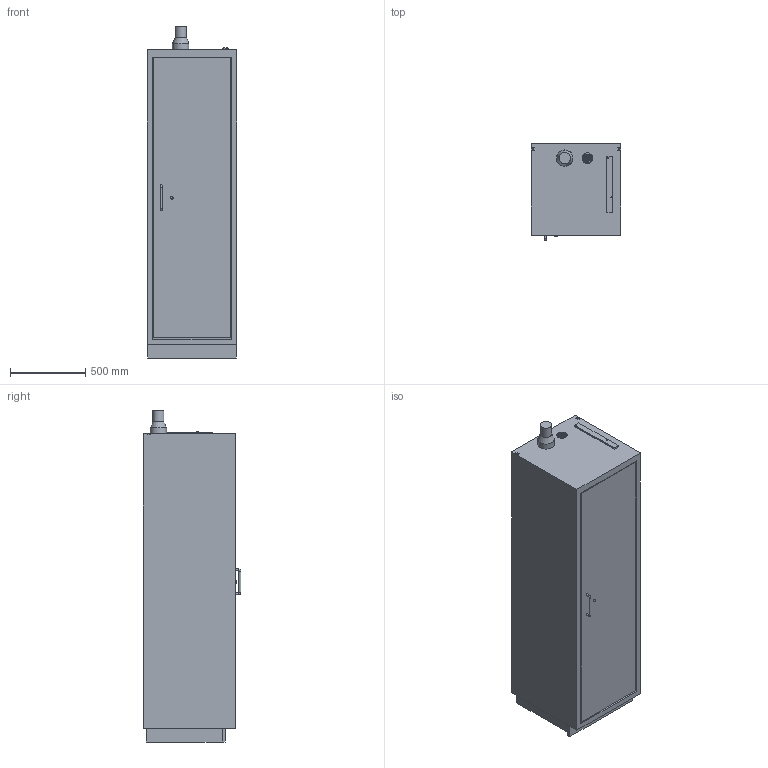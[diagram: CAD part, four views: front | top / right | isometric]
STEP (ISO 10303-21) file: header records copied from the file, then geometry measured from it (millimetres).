
FILE_DESCRIPTION(/* description */ ('Unknown'),/* implementation_level */ '2;1');
FILE_NAME(/* name */ 'Sicherheitsschrank Typ 90_D00086247',/* time_stamp */ '2019-04-10T11:21:08+02:00',/* author */ ('Unknown'),/* organization */ ('Unknown'),/* preprocessor_version */ 'ST-DEVELOPER v16.7',/* originating_system */ 'DEX',/* authorisation */ $);
FILE_SCHEMA (('AUTOMOTIVE_DESIGN {1 0 10303 214 3 1 1}'));
Length unit declared in the file: millimetre
Products named in the file (1): Sicherheitsschrank Typ 90_D00086247
Bounding box: 594 x 647 x 2203 mm (x, y, z)
Volume: 713104952.2 mm3; surface area: 6450805.1 mm2
Topology: 1 solids, 1 shells, 106 faces, 254 edges, 169 vertices
Faces by surface type: plane 79, cylinder 24, torus 2, cone 1
Full cylindrical faces by diameter (mm): 6.2 x2, 7.5 x2, 12 x3, 18 x1, 75 x1, 109.5 x1
Entity records: 3729 total; most frequent: CARTESIAN_POINT 509, DIRECTION 500, ORIENTED_EDGE 474, EDGE_CURVE 237, LINE 188, VECTOR 188, VERTEX_POINT 165, AXIS2_PLACEMENT_3D 156
